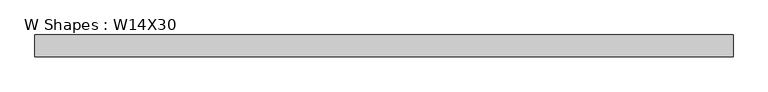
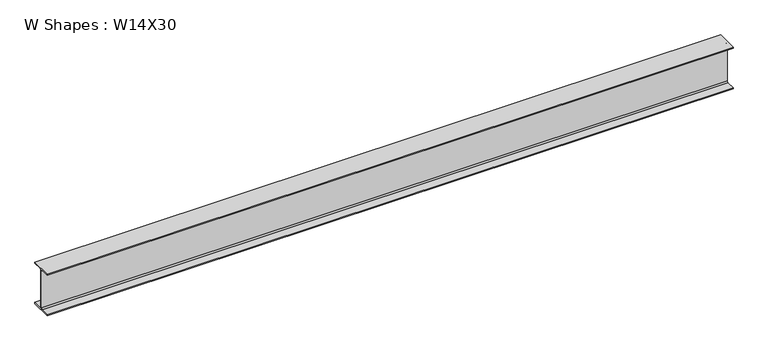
"""IFC4 building model written with IfcOpenShell, lengths in millimetres: beam geometry, W Shapes : W14X30."""

from ifc_helpers import new_model, si_unit, point, frame, frame_2d, origin, place, context, project, spatial, polyline, circle_curve, trimmed, segment, composite_curve, outline, extrude, source, transform, mapped, element, save


def w_shapes_w14x30_7ddd8bd5(model_context):
    return source(origin(), model_context, "Body", "SweptSolid", [
        extrude(outline(composite_curve([segment(polyline([(85.471, -165.481), (85.471, -175.26), (-85.471, -175.26), (-85.471, -165.481), (-13.589, -165.481)]), True, "CONTINUOUS"), segment(trimmed(circle_curve(frame_2d((-13.589, -155.321)), 10.16), [point((-13.589, -165.481))], [point((-3.429, -155.321))], True, "CARTESIAN"), True, "CONTINUOUS"), segment(polyline([(-3.429, -155.321), (-3.429, 155.321)]), True, "CONTINUOUS"), segment(trimmed(circle_curve(frame_2d((-13.589, 155.321)), 10.16), [point((-3.429, 155.321))], [point((-13.589, 165.481))], True, "CARTESIAN"), True, "CONTINUOUS"), segment(polyline([(-13.589, 165.481), (-85.471, 165.481), (-85.471, 175.26), (85.471, 175.26), (85.471, 165.481), (13.589, 165.481)]), True, "CONTINUOUS"), segment(trimmed(circle_curve(frame_2d((13.589, 155.321)), 10.16), [point((13.589, 165.481))], [point((3.429, 155.321))], True, "CARTESIAN"), True, "CONTINUOUS"), segment(polyline([(3.429, 155.321), (3.429, -155.321)]), True, "CONTINUOUS"), segment(trimmed(circle_curve(frame_2d((13.589, -155.321)), 10.16), [point((3.429, -155.321))], [point((13.589, -165.481))], True, "CARTESIAN"), True, "CONTINUOUS"), segment(polyline([(13.589, -165.481), (85.471, -165.481)]), True, "CONTINUOUS")], self_intersect=False)), frame((-2730.5, 0.0, 0.0), z_axis=(1.0, 0.0, 0.0), x_axis=(0.0, 1.0, 0.0)), (0.0, 0.0, 1.0), 5461.0),
    ])


if __name__ == "__main__":
    model = new_model("IFC4")
    model_context = context("Model", 3, world=origin())
    ifc_project = project(units=[si_unit("LENGTHUNIT", "METRE", prefix="MILLI")], contexts=[model_context])
    site = spatial("IfcSite", under=ifc_project)
    building = spatial("IfcBuilding", under=site)
    placement = place(None, origin())
    w_shapes_w14x30_shape = w_shapes_w14x30_7ddd8bd5(model_context)
    element("IfcBeam", 1, ObjectType="W Shapes : W14X30", at=placement, inside=building, context=model_context, shape_type="MappedRepresentation", body=[
        mapped(w_shapes_w14x30_shape, transform((0.0, 0.0, 0.0), x_axis=(1.0, 0.0, 0.0), y_axis=(0.0, 1.0, 0.0), z_axis=(0.0, 0.0, 1.0))),
    ])
    save(model, "model.ifc")
